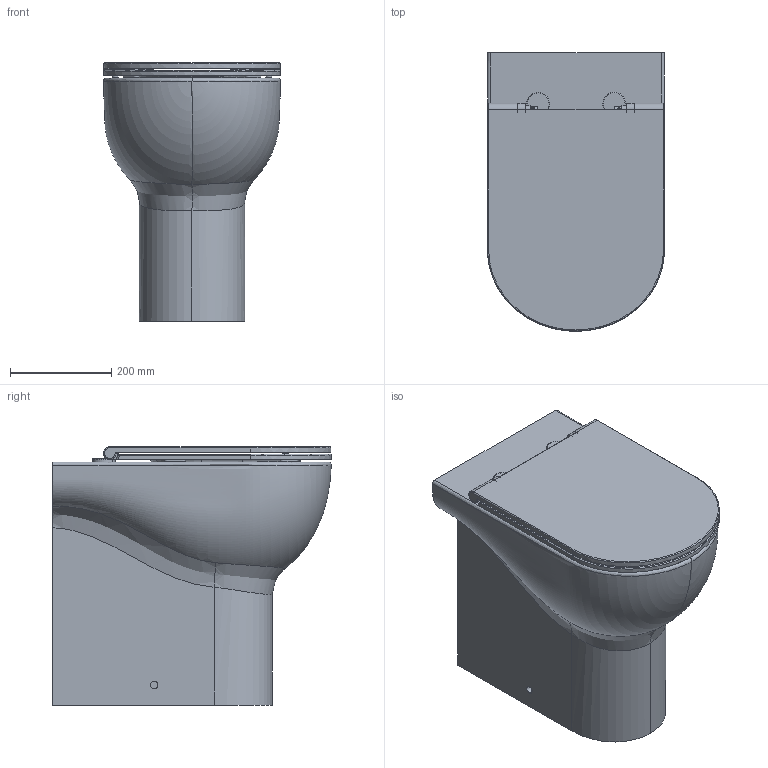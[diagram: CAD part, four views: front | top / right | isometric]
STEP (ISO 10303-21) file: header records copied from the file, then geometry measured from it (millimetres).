
FILE_DESCRIPTION (( 'STEP AP203' ), '1' );
FILE_NAME ('NUVCTT000480.STEP', '2019-07-01T10:47:14', ( '' ), ( '' ), 'SwSTEP 2.0', 'SolidWorks 2019', '' );
FILE_SCHEMA (( 'CONFIG_CONTROL_DESIGN' ));
Length unit declared in the file: millimetre
Products named in the file (7): NUV100_48TRP; Parte cernieraSNODO; NUVCTT000480; AssiemeNUV1818_F; CPWR NUV1818_F COPERCHIO; Parte cernieraPIASTRA; CPWR NUV1818_F CIAMBELLA
Assembly tree (8 placements, depth 3):
  NUVCTT000480
    NUV100_48TRP
    AssiemeNUV1818_F
      CPWR NUV1818_F CIAMBELLA
      CPWR NUV1818_F COPERCHIO
      Parte cernieraSNODO  x2
      Parte cernieraPIASTRA  x2
Bounding box: 349.4 x 549.92 x 510 mm (x, y, z)
Volume: 42989952.2 mm3; surface area: 1680233.9 mm2
Topology: 7 solids, 7 shells, 406 faces, 979 edges, 609 vertices
Faces by surface type: cylinder 156, plane 108, torus 76, bspline 62, cone 2, sphere 2
Entity records: 62619 total; most frequent: CARTESIAN_POINT 53310, ORIENTED_EDGE 1822, DIRECTION 1792, EDGE_CURVE 911, AXIS2_PLACEMENT_3D 736, VERTEX_POINT 567, CIRCLE 412, EDGE_LOOP 402
